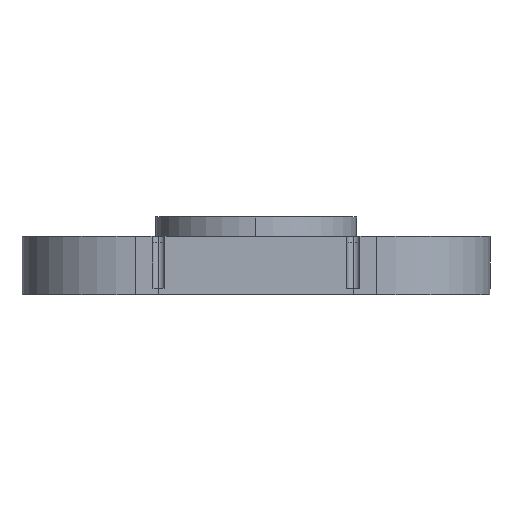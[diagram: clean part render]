
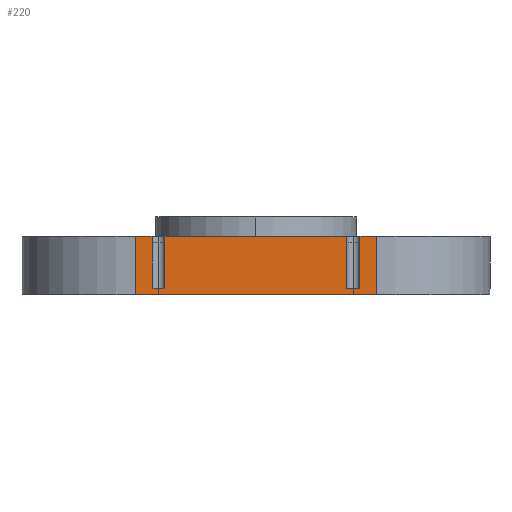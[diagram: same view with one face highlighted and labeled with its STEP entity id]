
A CAD part, left-side view. The second image highlights one B-rep face of the part: STEP entity #220.
In plain terms, the highlighted planar face has unit normal (-1, 0, 0).
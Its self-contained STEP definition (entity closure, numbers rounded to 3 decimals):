
#220=ADVANCED_FACE('',(#536),#537,.T.);
#536=FACE_OUTER_BOUND('',#966,.T.);
#537=PLANE('',#967);
#966=EDGE_LOOP('',(#1610,#1611,#1612,#1613,#1614,#1615,#1616,#1617,#1618,#1619,#1620,#1621));
#967=AXIS2_PLACEMENT_3D('',#1622,#1623,#1624);
#1610=ORIENTED_EDGE('',*,*,#2773,.T.);
#1611=ORIENTED_EDGE('',*,*,#2656,.T.);
#1612=ORIENTED_EDGE('',*,*,#2662,.F.);
#1613=ORIENTED_EDGE('',*,*,#2774,.T.);
#1614=ORIENTED_EDGE('',*,*,#2775,.T.);
#1615=ORIENTED_EDGE('',*,*,#2610,.T.);
#1616=ORIENTED_EDGE('',*,*,#2776,.T.);
#1617=ORIENTED_EDGE('',*,*,#2777,.T.);
#1618=ORIENTED_EDGE('',*,*,#2703,.T.);
#1619=ORIENTED_EDGE('',*,*,#2605,.T.);
#1620=ORIENTED_EDGE('',*,*,#2778,.T.);
#1621=ORIENTED_EDGE('',*,*,#2779,.T.);
#1622=CARTESIAN_POINT('',(-188.0,0.0,0.));
#1623=DIRECTION('',(-1.0,0.0,0.0));
#1624=DIRECTION('',(0.0,-1.0,0.0));
#2605=EDGE_CURVE('',#3144,#3142,#3145,.T.);
#2610=EDGE_CURVE('',#3154,#3152,#3155,.T.);
#2656=EDGE_CURVE('',#3135,#3240,#3242,.T.);
#2662=EDGE_CURVE('',#3250,#3240,#3252,.T.);
#2703=EDGE_CURVE('',#3322,#3144,#3323,.T.);
#2773=EDGE_CURVE('',#3436,#3135,#3437,.T.);
#2774=EDGE_CURVE('',#3250,#3438,#3439,.T.);
#2775=EDGE_CURVE('',#3438,#3154,#3440,.T.);
#2776=EDGE_CURVE('',#3152,#3441,#3442,.T.);
#2777=EDGE_CURVE('',#3441,#3322,#3443,.T.);
#2778=EDGE_CURVE('',#3142,#3444,#3445,.T.);
#2779=EDGE_CURVE('',#3444,#3436,#3446,.T.);
#3135=VERTEX_POINT('',#3917);
#3142=VERTEX_POINT('',#3925);
#3144=VERTEX_POINT('',#3928);
#3145=LINE('',#3929,#3930);
#3152=VERTEX_POINT('',#3938);
#3154=VERTEX_POINT('',#3941);
#3155=LINE('',#3942,#3943);
#3240=VERTEX_POINT('',#4058);
#3242=LINE('',#4060,#4061);
#3250=VERTEX_POINT('',#4070);
#3252=LINE('',#4072,#4073);
#3322=VERTEX_POINT('',#4163);
#3323=LINE('',#4164,#4165);
#3436=VERTEX_POINT('',#4305);
#3437=LINE('',#4306,#4307);
#3438=VERTEX_POINT('',#4308);
#3439=LINE('',#4309,#4310);
#3440=LINE('',#4311,#4312);
#3441=VERTEX_POINT('',#4313);
#3442=LINE('',#4314,#4315);
#3443=LINE('',#4316,#4317);
#3444=VERTEX_POINT('',#4318);
#3445=LINE('',#4319,#4320);
#3446=LINE('',#4321,#4322);
#3917=CARTESIAN_POINT('',(-188.0,32.0,18.0));
#3925=CARTESIAN_POINT('',(-188.0,28.0,18.0));
#3928=CARTESIAN_POINT('',(-188.0,-28.,18.0));
#3929=CARTESIAN_POINT('',(-188.0,37.0,18.0));
#3930=VECTOR('',#4882,1.0);
#3938=CARTESIAN_POINT('',(-188.0,-32.,18.0));
#3941=CARTESIAN_POINT('',(-188.0,-37.0,18.0));
#3942=CARTESIAN_POINT('',(-188.0,37.0,18.0));
#3943=VECTOR('',#4891,1.0);
#4058=CARTESIAN_POINT('',(-188.0,37.0,18.0));
#4060=CARTESIAN_POINT('',(-188.0,37.0,18.0));
#4061=VECTOR('',#4967,1.0);
#4070=CARTESIAN_POINT('',(-188.0,37.0,0.));
#4072=CARTESIAN_POINT('',(-188.0,37.0,0.));
#4073=VECTOR('',#4978,1.0);
#4163=CARTESIAN_POINT('',(-188.0,-28.,2.0));
#4164=CARTESIAN_POINT('',(-188.0,-28.,1.0));
#4165=VECTOR('',#5032,1.0);
#4305=CARTESIAN_POINT('',(-188.0,32.0,2.));
#4306=CARTESIAN_POINT('',(-188.0,32.0,1.));
#4307=VECTOR('',#5138,1.0);
#4308=CARTESIAN_POINT('',(-188.0,-37.0,0.));
#4309=CARTESIAN_POINT('',(-188.0,37.0,0.));
#4310=VECTOR('',#5139,1.0);
#4311=CARTESIAN_POINT('',(-188.0,-37.0,0.));
#4312=VECTOR('',#5140,1.0);
#4313=CARTESIAN_POINT('',(-188.0,-32.,2.0));
#4314=CARTESIAN_POINT('',(-188.0,-32.,1.0));
#4315=VECTOR('',#5141,1.0);
#4316=CARTESIAN_POINT('',(-188.0,-15.0,2.));
#4317=VECTOR('',#5142,1.0);
#4318=CARTESIAN_POINT('',(-188.0,28.0,2.));
#4319=CARTESIAN_POINT('',(-188.0,28.0,1.));
#4320=VECTOR('',#5143,1.0);
#4321=CARTESIAN_POINT('',(-188.0,15.0,2.));
#4322=VECTOR('',#5144,1.0);
#4882=DIRECTION('',(0.0,1.0,0.0));
#4891=DIRECTION('',(0.0,1.0,0.0));
#4967=DIRECTION('',(0.0,1.0,0.0));
#4978=DIRECTION('',(0.0,0.0,1.0));
#5032=DIRECTION('',(0.0,0.,1.0));
#5138=DIRECTION('',(0.0,0.,1.0));
#5139=DIRECTION('',(0.0,-1.0,0.0));
#5140=DIRECTION('',(0.0,0.0,1.0));
#5141=DIRECTION('',(0.0,0.,-1.0));
#5142=DIRECTION('',(0.0,1.0,0.));
#5143=DIRECTION('',(0.0,0.,-1.0));
#5144=DIRECTION('',(0.0,1.0,0.));
